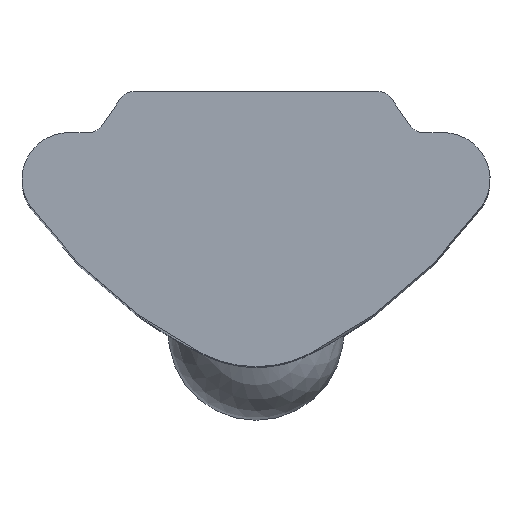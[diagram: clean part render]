
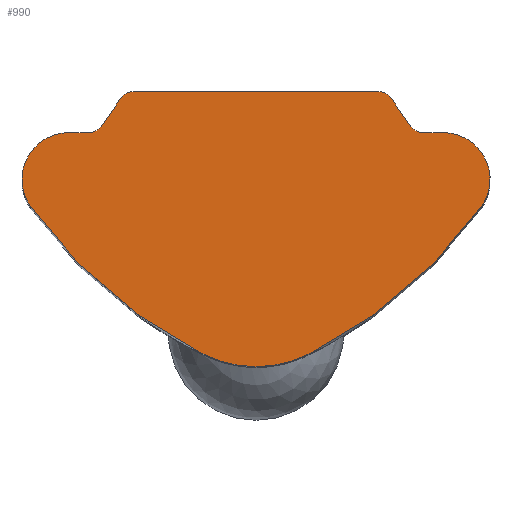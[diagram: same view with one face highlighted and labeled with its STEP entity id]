
A CAD part, top view. The second image highlights one B-rep face of the part: STEP entity #990.
In plain terms, the highlighted planar face has unit normal (0, 0, 1).
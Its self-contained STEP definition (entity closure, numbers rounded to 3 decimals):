
#221=CARTESIAN_POINT('',(3.852,2.736,20.0));
#222=VERTEX_POINT('',#221);
#229=CARTESIAN_POINT('',(0.889,0.208,20.0));
#230=VERTEX_POINT('',#229);
#231=CARTESIAN_POINT('',(-2.666,7.375,20.0));
#232=DIRECTION('',(0.0,0.0,-1.));
#233=DIRECTION('',(0.444,-0.896,0.0));
#234=AXIS2_PLACEMENT_3D('',#231,#232,#233);
#235=CIRCLE('',#234,8.0);
#236=EDGE_CURVE('',#222,#230,#235,.T.);
#436=CARTESIAN_POINT('',(-0.889,0.208,20.0));
#437=VERTEX_POINT('',#436);
#444=CARTESIAN_POINT('',(-3.852,2.736,20.0));
#445=VERTEX_POINT('',#444);
#446=CARTESIAN_POINT('',(2.666,7.375,20.0));
#447=DIRECTION('',(0.0,0.0,-1.));
#448=DIRECTION('',(-0.815,-0.58,0.0));
#449=AXIS2_PLACEMENT_3D('',#446,#447,#448);
#450=CIRCLE('',#449,8.0);
#451=EDGE_CURVE('',#437,#445,#450,.T.);
#568=CARTESIAN_POINT('',(0.0,2.,20.0));
#569=DIRECTION('',(0.0,0.0,-1.));
#570=DIRECTION('',(-0.444,-0.896,0.0));
#571=AXIS2_PLACEMENT_3D('',#568,#569,#570);
#572=CIRCLE('',#571,2.);
#573=EDGE_CURVE('',#230,#437,#572,.T.);
#584=CARTESIAN_POINT('',(2.1,4.7,20.0));
#585=VERTEX_POINT('',#584);
#586=CARTESIAN_POINT('',(2.305,4.593,20.0));
#587=VERTEX_POINT('',#586);
#588=CARTESIAN_POINT('',(2.1,4.45,20.0));
#589=DIRECTION('',(0.0,0.0,-1.));
#590=DIRECTION('',(0.819,0.573,0.0));
#591=AXIS2_PLACEMENT_3D('',#588,#589,#590);
#592=CIRCLE('',#591,0.25);
#593=EDGE_CURVE('',#585,#587,#592,.T.);
#626=CARTESIAN_POINT('',(2.645,4.107,20.0));
#627=VERTEX_POINT('',#626);
#628=CARTESIAN_POINT('',(2.305,4.593,20.0));
#629=DIRECTION('',(0.573,-0.819,0.0));
#630=VECTOR('',#629,0.594);
#631=LINE('',#628,#630);
#632=EDGE_CURVE('',#587,#627,#631,.T.);
#657=CARTESIAN_POINT('',(2.85,4.,20.0));
#658=VERTEX_POINT('',#657);
#659=CARTESIAN_POINT('',(2.85,4.25,20.0));
#660=DIRECTION('',(0.0,0.0,1.0));
#661=DIRECTION('',(0.819,0.573,0.0));
#662=AXIS2_PLACEMENT_3D('',#659,#660,#661);
#663=CIRCLE('',#662,0.25);
#664=EDGE_CURVE('',#627,#658,#663,.T.);
#690=CARTESIAN_POINT('',(3.2,4.,20.0));
#691=VERTEX_POINT('',#690);
#692=CARTESIAN_POINT('',(2.85,4.,20.0));
#693=DIRECTION('',(1.0,0.0,0.0));
#694=VECTOR('',#693,0.35);
#695=LINE('',#692,#694);
#696=EDGE_CURVE('',#658,#691,#695,.T.);
#721=CARTESIAN_POINT('',(3.2,3.2,20.0));
#722=DIRECTION('',(0.0,0.0,-1.));
#723=DIRECTION('',(0.815,-0.58,0.0));
#724=AXIS2_PLACEMENT_3D('',#721,#722,#723);
#725=CIRCLE('',#724,0.8);
#726=EDGE_CURVE('',#691,#222,#725,.T.);
#763=CARTESIAN_POINT('',(-3.2,4.,20.0));
#764=VERTEX_POINT('',#763);
#765=CARTESIAN_POINT('',(-3.2,3.2,20.0));
#766=DIRECTION('',(0.0,0.0,-1.0));
#767=DIRECTION('',(0.,1.0,0.0));
#768=AXIS2_PLACEMENT_3D('',#765,#766,#767);
#769=CIRCLE('',#768,0.8);
#770=EDGE_CURVE('',#445,#764,#769,.T.);
#796=CARTESIAN_POINT('',(-2.85,4.,20.0));
#797=VERTEX_POINT('',#796);
#798=CARTESIAN_POINT('',(-3.2,4.,20.0));
#799=DIRECTION('',(1.0,0.0,0.0));
#800=VECTOR('',#799,0.35);
#801=LINE('',#798,#800);
#802=EDGE_CURVE('',#764,#797,#801,.T.);
#827=CARTESIAN_POINT('',(-2.645,4.107,20.0));
#828=VERTEX_POINT('',#827);
#829=CARTESIAN_POINT('',(-2.85,4.25,20.0));
#830=DIRECTION('',(0.0,0.0,1.0));
#831=DIRECTION('',(0.,1.0,0.0));
#832=AXIS2_PLACEMENT_3D('',#829,#830,#831);
#833=CIRCLE('',#832,0.25);
#834=EDGE_CURVE('',#797,#828,#833,.T.);
#860=CARTESIAN_POINT('',(-2.305,4.593,20.0));
#861=VERTEX_POINT('',#860);
#862=CARTESIAN_POINT('',(-2.645,4.107,20.0));
#863=DIRECTION('',(0.573,0.819,0.0));
#864=VECTOR('',#863,0.594);
#865=LINE('',#862,#864);
#866=EDGE_CURVE('',#828,#861,#865,.T.);
#891=CARTESIAN_POINT('',(-2.1,4.7,20.0));
#892=VERTEX_POINT('',#891);
#893=CARTESIAN_POINT('',(-2.1,4.45,20.0));
#894=DIRECTION('',(0.0,0.0,-1.0));
#895=DIRECTION('',(0.,1.0,0.0));
#896=AXIS2_PLACEMENT_3D('',#893,#894,#895);
#897=CIRCLE('',#896,0.25);
#898=EDGE_CURVE('',#861,#892,#897,.T.);
#924=CARTESIAN_POINT('',(-2.1,4.7,20.0));
#925=DIRECTION('',(1.0,0.0,0.0));
#926=VECTOR('',#925,4.2);
#927=LINE('',#924,#926);
#928=EDGE_CURVE('',#892,#585,#927,.T.);
#969=CARTESIAN_POINT('',(0.,2.712,20.0));
#970=DIRECTION('',(0.0,0.0,1.0));
#971=DIRECTION('',(1.0,0.0,0.0));
#972=AXIS2_PLACEMENT_3D('',#969,#970,#971);
#973=PLANE('',#972);
#974=ORIENTED_EDGE('',*,*,#593,.F.);
#975=ORIENTED_EDGE('',*,*,#928,.F.);
#976=ORIENTED_EDGE('',*,*,#898,.F.);
#977=ORIENTED_EDGE('',*,*,#866,.F.);
#978=ORIENTED_EDGE('',*,*,#834,.F.);
#979=ORIENTED_EDGE('',*,*,#802,.F.);
#980=ORIENTED_EDGE('',*,*,#770,.F.);
#981=ORIENTED_EDGE('',*,*,#451,.F.);
#982=ORIENTED_EDGE('',*,*,#573,.F.);
#983=ORIENTED_EDGE('',*,*,#236,.F.);
#984=ORIENTED_EDGE('',*,*,#726,.F.);
#985=ORIENTED_EDGE('',*,*,#696,.F.);
#986=ORIENTED_EDGE('',*,*,#664,.F.);
#987=ORIENTED_EDGE('',*,*,#632,.F.);
#988=EDGE_LOOP('',(#974,#975,#976,#977,#978,#979,#980,#981,#982,#983,#984,#985,#986,#987));
#989=FACE_OUTER_BOUND('',#988,.T.);
#990=ADVANCED_FACE('',(#989),#973,.T.);
